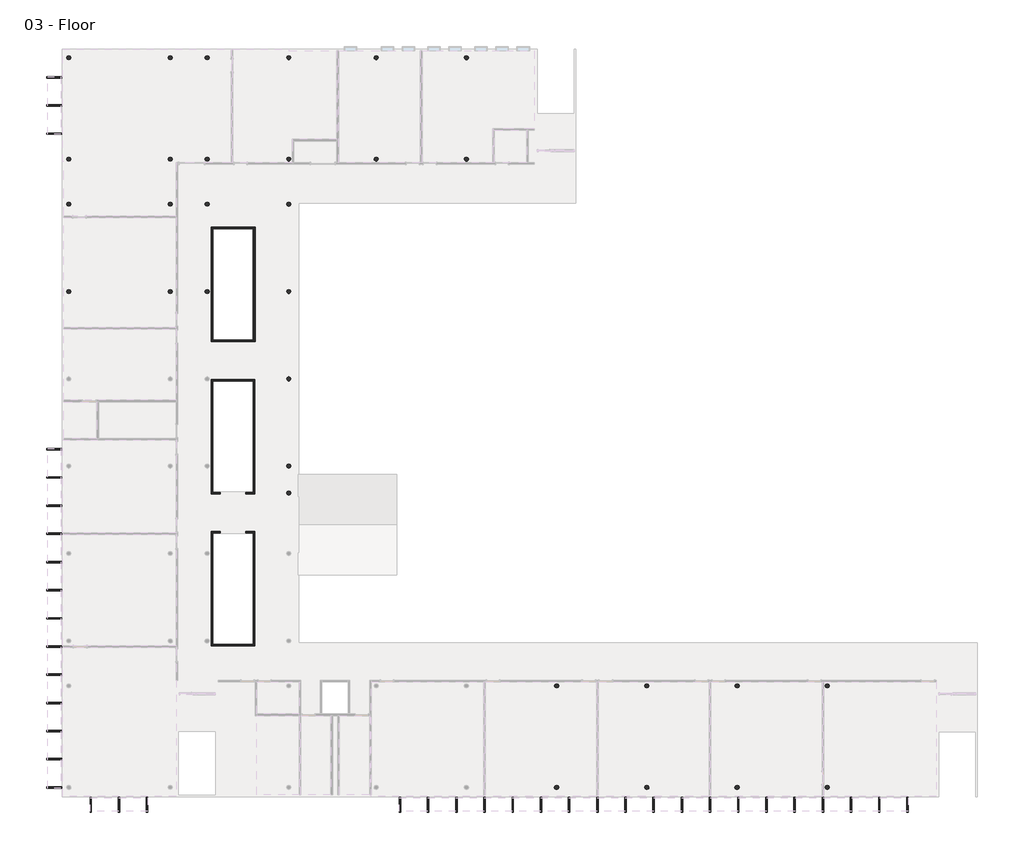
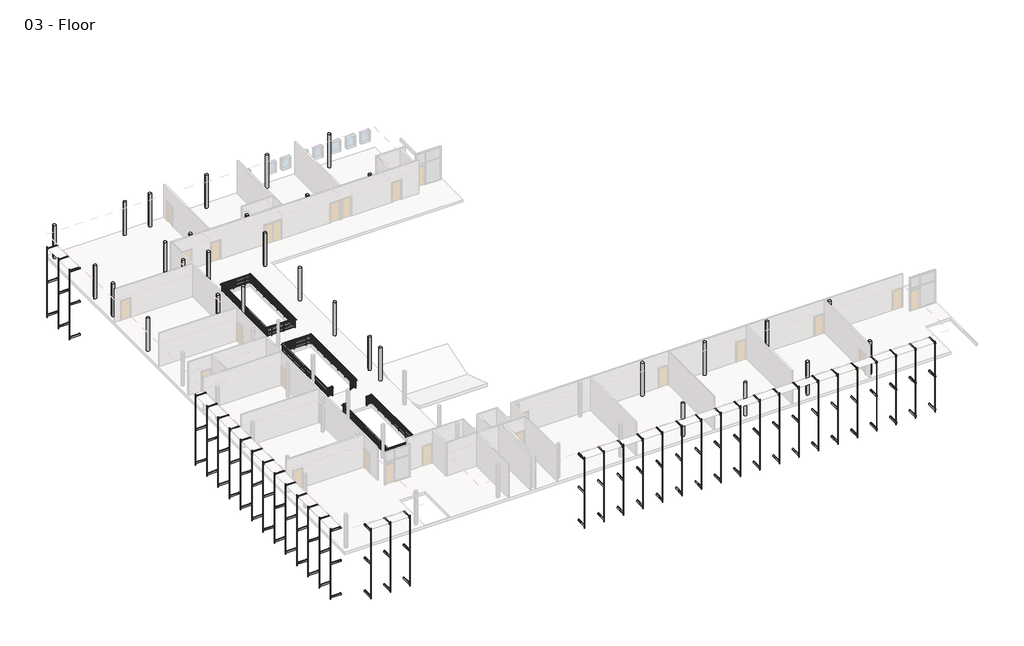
# One storey, part 4 of 4: 38 proxies, 31 columns, 3 railings.
"""IFC4 building model written with IfcOpenShell, lengths in millimetres."""

from ifc_helpers import new_model, si_unit, point, frame, frame_2d, origin, place, context, project, spatial, circle_curve, trimmed, segment, composite_curve, outline, extrude, transform, mapped, element, save
from components import shade_support_shade_support_fc9bf8e5, guardrail_pipe_5d98fd56, guardrail_pipe_c8bc3c76, guardrail_pipe_a18c1e3b

model = new_model("IFC4")

# Units and contexts
model_context = context("Model", 3, world=origin())
ifc_project = project(units=[si_unit("LENGTHUNIT", "METRE", prefix="MILLI")], contexts=[model_context])

# Site, building, storey
site = spatial("IfcSite", under=ifc_project)
building = spatial("IfcBuilding", under=site)
storey = spatial("IfcBuildingStorey", under=building, Name="03 - Floor", Elevation=7315.2)

# Proxies
placement = place(None, origin())
shade_support_shade_support_shape = shade_support_shade_support_fc9bf8e5(model_context)
element("IfcBuildingElementProxy", 1, Name="SHADE SUPPORT : SHADE SUPPORT", ObjectType="SHADE SUPPORT : SHADE SUPPORT", at=placement, inside=storey, context=model_context, shape_type="MappedRepresentation", body=[
    mapped(shade_support_shade_support_shape, transform((2210.7207476, -111.2, 2470.15), x_axis=(1.0, 0.0, 0.0), y_axis=(0.0, 0.0, 1.0), z_axis=(0.0, -1.0, 0.0))),
])
element("IfcBuildingElementProxy", 2, Name="SHADE SUPPORT : SHADE SUPPORT", ObjectType="SHADE SUPPORT : SHADE SUPPORT", at=placement, inside=storey, context=model_context, shape_type="MappedRepresentation", body=[
    mapped(shade_support_shade_support_shape, transform((4242.7207476, -111.2, 2470.15), x_axis=(1.0, 0.0, 0.0), y_axis=(0.0, 0.0, 1.0), z_axis=(0.0, -1.0, 0.0))),
])
element("IfcBuildingElementProxy", 3, Name="SHADE SUPPORT : SHADE SUPPORT", ObjectType="SHADE SUPPORT : SHADE SUPPORT", at=placement, inside=storey, context=model_context, shape_type="MappedRepresentation", body=[
    mapped(shade_support_shade_support_shape, transform((6274.7207476, -111.2, 2470.15), x_axis=(1.0, 0.0, 0.0), y_axis=(0.0, 0.0, 1.0), z_axis=(0.0, -1.0, 0.0))),
])
element("IfcBuildingElementProxy", 4, Name="SHADE SUPPORT : SHADE SUPPORT", ObjectType="SHADE SUPPORT : SHADE SUPPORT", at=placement, inside=storey, context=model_context, shape_type="MappedRepresentation", body=[
    mapped(shade_support_shade_support_shape, transform((24499.2207476, -111.2, 2470.15), x_axis=(1.0, 0.0, 0.0), y_axis=(0.0, 0.0, 1.0), z_axis=(0.0, -1.0, 0.0))),
])
element("IfcBuildingElementProxy", 5, Name="SHADE SUPPORT : SHADE SUPPORT", ObjectType="SHADE SUPPORT : SHADE SUPPORT", at=placement, inside=storey, context=model_context, shape_type="MappedRepresentation", body=[
    mapped(shade_support_shade_support_shape, transform((26531.2207476, -111.2, 2470.15), x_axis=(1.0, 0.0, 0.0), y_axis=(0.0, 0.0, 1.0), z_axis=(0.0, -1.0, 0.0))),
])
element("IfcBuildingElementProxy", 6, Name="SHADE SUPPORT : SHADE SUPPORT", ObjectType="SHADE SUPPORT : SHADE SUPPORT", at=placement, inside=storey, context=model_context, shape_type="MappedRepresentation", body=[
    mapped(shade_support_shade_support_shape, transform((28563.2207476, -111.2, 2470.15), x_axis=(1.0, 0.0, 0.0), y_axis=(0.0, 0.0, 1.0), z_axis=(0.0, -1.0, 0.0))),
])
element("IfcBuildingElementProxy", 7, Name="SHADE SUPPORT : SHADE SUPPORT", ObjectType="SHADE SUPPORT : SHADE SUPPORT", at=placement, inside=storey, context=model_context, shape_type="MappedRepresentation", body=[
    mapped(shade_support_shade_support_shape, transform((30595.2207476, -111.2, 2470.15), x_axis=(1.0, 0.0, 0.0), y_axis=(0.0, 0.0, 1.0), z_axis=(0.0, -1.0, 0.0))),
])
element("IfcBuildingElementProxy", 8, Name="SHADE SUPPORT : SHADE SUPPORT", ObjectType="SHADE SUPPORT : SHADE SUPPORT", at=placement, inside=storey, context=model_context, shape_type="MappedRepresentation", body=[
    mapped(shade_support_shade_support_shape, transform((32627.2207476, -111.2, 2470.15), x_axis=(1.0, 0.0, 0.0), y_axis=(0.0, 0.0, 1.0), z_axis=(0.0, -1.0, 0.0))),
])
element("IfcBuildingElementProxy", 9, Name="SHADE SUPPORT : SHADE SUPPORT", ObjectType="SHADE SUPPORT : SHADE SUPPORT", at=placement, inside=storey, context=model_context, shape_type="MappedRepresentation", body=[
    mapped(shade_support_shade_support_shape, transform((34659.2207476, -111.2, 2470.15), x_axis=(1.0, 0.0, 0.0), y_axis=(0.0, 0.0, 1.0), z_axis=(0.0, -1.0, 0.0))),
])
element("IfcBuildingElementProxy", 10, Name="SHADE SUPPORT : SHADE SUPPORT", ObjectType="SHADE SUPPORT : SHADE SUPPORT", at=placement, inside=storey, context=model_context, shape_type="MappedRepresentation", body=[
    mapped(shade_support_shade_support_shape, transform((36691.2207476, -111.2, 2470.15), x_axis=(1.0, 0.0, 0.0), y_axis=(0.0, 0.0, 1.0), z_axis=(0.0, -1.0, 0.0))),
])
element("IfcBuildingElementProxy", 11, Name="SHADE SUPPORT : SHADE SUPPORT", ObjectType="SHADE SUPPORT : SHADE SUPPORT", at=placement, inside=storey, context=model_context, shape_type="MappedRepresentation", body=[
    mapped(shade_support_shade_support_shape, transform((38723.2207476, -111.2, 2470.15), x_axis=(1.0, 0.0, 0.0), y_axis=(0.0, 0.0, 1.0), z_axis=(0.0, -1.0, 0.0))),
])
element("IfcBuildingElementProxy", 12, Name="SHADE SUPPORT : SHADE SUPPORT", ObjectType="SHADE SUPPORT : SHADE SUPPORT", at=placement, inside=storey, context=model_context, shape_type="MappedRepresentation", body=[
    mapped(shade_support_shade_support_shape, transform((40755.2207476, -111.2, 2470.15), x_axis=(1.0, 0.0, 0.0), y_axis=(0.0, 0.0, 1.0), z_axis=(0.0, -1.0, 0.0))),
])
element("IfcBuildingElementProxy", 13, Name="SHADE SUPPORT : SHADE SUPPORT", ObjectType="SHADE SUPPORT : SHADE SUPPORT", at=placement, inside=storey, context=model_context, shape_type="MappedRepresentation", body=[
    mapped(shade_support_shade_support_shape, transform((42787.2207476, -111.2, 2470.15), x_axis=(1.0, 0.0, 0.0), y_axis=(0.0, 0.0, 1.0), z_axis=(0.0, -1.0, 0.0))),
])
element("IfcBuildingElementProxy", 14, Name="SHADE SUPPORT : SHADE SUPPORT", ObjectType="SHADE SUPPORT : SHADE SUPPORT", at=placement, inside=storey, context=model_context, shape_type="MappedRepresentation", body=[
    mapped(shade_support_shade_support_shape, transform((44819.2207476, -111.2, 2470.15), x_axis=(1.0, 0.0, 0.0), y_axis=(0.0, 0.0, 1.0), z_axis=(0.0, -1.0, 0.0))),
])
element("IfcBuildingElementProxy", 15, Name="SHADE SUPPORT : SHADE SUPPORT", ObjectType="SHADE SUPPORT : SHADE SUPPORT", at=placement, inside=storey, context=model_context, shape_type="MappedRepresentation", body=[
    mapped(shade_support_shade_support_shape, transform((46851.2207476, -111.2, 2470.15), x_axis=(1.0, 0.0, 0.0), y_axis=(0.0, 0.0, 1.0), z_axis=(0.0, -1.0, 0.0))),
])
element("IfcBuildingElementProxy", 16, Name="SHADE SUPPORT : SHADE SUPPORT", ObjectType="SHADE SUPPORT : SHADE SUPPORT", at=placement, inside=storey, context=model_context, shape_type="MappedRepresentation", body=[
    mapped(shade_support_shade_support_shape, transform((48883.2207476, -111.2, 2470.15), x_axis=(1.0, 0.0, 0.0), y_axis=(0.0, 0.0, 1.0), z_axis=(0.0, -1.0, 0.0))),
])
element("IfcBuildingElementProxy", 17, Name="SHADE SUPPORT : SHADE SUPPORT", ObjectType="SHADE SUPPORT : SHADE SUPPORT", at=placement, inside=storey, context=model_context, shape_type="MappedRepresentation", body=[
    mapped(shade_support_shade_support_shape, transform((50915.2207476, -111.2, 2470.15), x_axis=(1.0, 0.0, 0.0), y_axis=(0.0, 0.0, 1.0), z_axis=(0.0, -1.0, 0.0))),
])
element("IfcBuildingElementProxy", 18, Name="SHADE SUPPORT : SHADE SUPPORT", ObjectType="SHADE SUPPORT : SHADE SUPPORT", at=placement, inside=storey, context=model_context, shape_type="MappedRepresentation", body=[
    mapped(shade_support_shade_support_shape, transform((52947.2207476, -111.2, 2470.15), x_axis=(1.0, 0.0, 0.0), y_axis=(0.0, 0.0, 1.0), z_axis=(0.0, -1.0, 0.0))),
])
element("IfcBuildingElementProxy", 19, Name="SHADE SUPPORT : SHADE SUPPORT", ObjectType="SHADE SUPPORT : SHADE SUPPORT", at=placement, inside=storey, context=model_context, shape_type="MappedRepresentation", body=[
    mapped(shade_support_shade_support_shape, transform((54979.2207476, -111.2, 2470.15), x_axis=(1.0, 0.0, 0.0), y_axis=(0.0, 0.0, 1.0), z_axis=(0.0, -1.0, 0.0))),
])
element("IfcBuildingElementProxy", 20, Name="SHADE SUPPORT : SHADE SUPPORT", ObjectType="SHADE SUPPORT : SHADE SUPPORT", at=placement, inside=storey, context=model_context, shape_type="MappedRepresentation", body=[
    mapped(shade_support_shade_support_shape, transform((57011.2207476, -111.2, 2470.15), x_axis=(1.0, 0.0, 0.0), y_axis=(0.0, 0.0, 1.0), z_axis=(0.0, -1.0, 0.0))),
])
element("IfcBuildingElementProxy", 21, Name="SHADE SUPPORT : SHADE SUPPORT", ObjectType="SHADE SUPPORT : SHADE SUPPORT", at=placement, inside=storey, context=model_context, shape_type="MappedRepresentation", body=[
    mapped(shade_support_shade_support_shape, transform((59043.2207476, -111.2, 2470.15), x_axis=(1.0, 0.0, 0.0), y_axis=(0.0, 0.0, 1.0), z_axis=(0.0, -1.0, 0.0))),
])
element("IfcBuildingElementProxy", 22, Name="SHADE SUPPORT : SHADE SUPPORT", ObjectType="SHADE SUPPORT : SHADE SUPPORT", at=placement, inside=storey, context=model_context, shape_type="MappedRepresentation", body=[
    mapped(shade_support_shade_support_shape, transform((61075.2207476, -111.2, 2470.15), x_axis=(1.0, 0.0, 0.0), y_axis=(0.0, 0.0, 1.0), z_axis=(0.0, -1.0, 0.0))),
])
element("IfcBuildingElementProxy", 23, Name="SHADE SUPPORT : SHADE SUPPORT", ObjectType="SHADE SUPPORT : SHADE SUPPORT", at=placement, inside=storey, context=model_context, shape_type="MappedRepresentation", body=[
    mapped(shade_support_shade_support_shape, transform((115.2207476, 600.0, 2470.15), x_axis=(0.0, -1.0, 0.0), y_axis=(0.0, 0.0, 1.0), z_axis=(-1.0, 0.0, 0.0))),
])
element("IfcBuildingElementProxy", 24, Name="SHADE SUPPORT : SHADE SUPPORT", ObjectType="SHADE SUPPORT : SHADE SUPPORT", at=placement, inside=storey, context=model_context, shape_type="MappedRepresentation", body=[
    mapped(shade_support_shade_support_shape, transform((115.2207476, 2632.0, 2470.15), x_axis=(0.0, -1.0, 0.0), y_axis=(0.0, 0.0, 1.0), z_axis=(-1.0, 0.0, 0.0))),
])
element("IfcBuildingElementProxy", 25, Name="SHADE SUPPORT : SHADE SUPPORT", ObjectType="SHADE SUPPORT : SHADE SUPPORT", at=placement, inside=storey, context=model_context, shape_type="MappedRepresentation", body=[
    mapped(shade_support_shade_support_shape, transform((115.2207476, 4664.0, 2470.15), x_axis=(0.0, -1.0, 0.0), y_axis=(0.0, 0.0, 1.0), z_axis=(-1.0, 0.0, 0.0))),
])
element("IfcBuildingElementProxy", 26, Name="SHADE SUPPORT : SHADE SUPPORT", ObjectType="SHADE SUPPORT : SHADE SUPPORT", at=placement, inside=storey, context=model_context, shape_type="MappedRepresentation", body=[
    mapped(shade_support_shade_support_shape, transform((115.2207476, 6696.0, 2470.15), x_axis=(0.0, -1.0, 0.0), y_axis=(0.0, 0.0, 1.0), z_axis=(-1.0, 0.0, 0.0))),
])
element("IfcBuildingElementProxy", 27, Name="SHADE SUPPORT : SHADE SUPPORT", ObjectType="SHADE SUPPORT : SHADE SUPPORT", at=placement, inside=storey, context=model_context, shape_type="MappedRepresentation", body=[
    mapped(shade_support_shade_support_shape, transform((115.2207476, 8728.0, 2470.15), x_axis=(0.0, -1.0, 0.0), y_axis=(0.0, 0.0, 1.0), z_axis=(-1.0, 0.0, 0.0))),
])
element("IfcBuildingElementProxy", 28, Name="SHADE SUPPORT : SHADE SUPPORT", ObjectType="SHADE SUPPORT : SHADE SUPPORT", at=placement, inside=storey, context=model_context, shape_type="MappedRepresentation", body=[
    mapped(shade_support_shade_support_shape, transform((115.2207476, 10760.0, 2470.15), x_axis=(0.0, -1.0, 0.0), y_axis=(0.0, 0.0, 1.0), z_axis=(-1.0, 0.0, 0.0))),
])
element("IfcBuildingElementProxy", 29, Name="SHADE SUPPORT : SHADE SUPPORT", ObjectType="SHADE SUPPORT : SHADE SUPPORT", at=placement, inside=storey, context=model_context, shape_type="MappedRepresentation", body=[
    mapped(shade_support_shade_support_shape, transform((115.2207476, 12792.0, 2470.15), x_axis=(0.0, -1.0, 0.0), y_axis=(0.0, 0.0, 1.0), z_axis=(-1.0, 0.0, 0.0))),
])
element("IfcBuildingElementProxy", 30, Name="SHADE SUPPORT : SHADE SUPPORT", ObjectType="SHADE SUPPORT : SHADE SUPPORT", at=placement, inside=storey, context=model_context, shape_type="MappedRepresentation", body=[
    mapped(shade_support_shade_support_shape, transform((115.2207476, 14824.0, 2470.15), x_axis=(0.0, -1.0, 0.0), y_axis=(0.0, 0.0, 1.0), z_axis=(-1.0, 0.0, 0.0))),
])
element("IfcBuildingElementProxy", 31, Name="SHADE SUPPORT : SHADE SUPPORT", ObjectType="SHADE SUPPORT : SHADE SUPPORT", at=placement, inside=storey, context=model_context, shape_type="MappedRepresentation", body=[
    mapped(shade_support_shade_support_shape, transform((115.2207476, 16856.0, 2470.15), x_axis=(0.0, -1.0, 0.0), y_axis=(0.0, 0.0, 1.0), z_axis=(-1.0, 0.0, 0.0))),
])
element("IfcBuildingElementProxy", 32, Name="SHADE SUPPORT : SHADE SUPPORT", ObjectType="SHADE SUPPORT : SHADE SUPPORT", at=placement, inside=storey, context=model_context, shape_type="MappedRepresentation", body=[
    mapped(shade_support_shade_support_shape, transform((115.2207476, 18888.0, 2470.15), x_axis=(0.0, -1.0, 0.0), y_axis=(0.0, 0.0, 1.0), z_axis=(-1.0, 0.0, 0.0))),
])
element("IfcBuildingElementProxy", 33, Name="SHADE SUPPORT : SHADE SUPPORT", ObjectType="SHADE SUPPORT : SHADE SUPPORT", at=placement, inside=storey, context=model_context, shape_type="MappedRepresentation", body=[
    mapped(shade_support_shade_support_shape, transform((115.2207476, 20920.0, 2470.15), x_axis=(0.0, -1.0, 0.0), y_axis=(0.0, 0.0, 1.0), z_axis=(-1.0, 0.0, 0.0))),
])
element("IfcBuildingElementProxy", 34, Name="SHADE SUPPORT : SHADE SUPPORT", ObjectType="SHADE SUPPORT : SHADE SUPPORT", at=placement, inside=storey, context=model_context, shape_type="MappedRepresentation", body=[
    mapped(shade_support_shade_support_shape, transform((115.2207476, 22952.0, 2470.15), x_axis=(0.0, -1.0, 0.0), y_axis=(0.0, 0.0, 1.0), z_axis=(-1.0, 0.0, 0.0))),
])
element("IfcBuildingElementProxy", 35, Name="SHADE SUPPORT : SHADE SUPPORT", ObjectType="SHADE SUPPORT : SHADE SUPPORT", at=placement, inside=storey, context=model_context, shape_type="MappedRepresentation", body=[
    mapped(shade_support_shade_support_shape, transform((115.2207476, 24984.0, 2470.15), x_axis=(0.0, -1.0, 0.0), y_axis=(0.0, 0.0, 1.0), z_axis=(-1.0, 0.0, 0.0))),
])
element("IfcBuildingElementProxy", 36, Name="SHADE SUPPORT : SHADE SUPPORT", ObjectType="SHADE SUPPORT : SHADE SUPPORT", at=placement, inside=storey, context=model_context, shape_type="MappedRepresentation", body=[
    mapped(shade_support_shade_support_shape, transform((115.2207476, 47748.75, 2470.15), x_axis=(0.0, -1.0, 0.0), y_axis=(0.0, 0.0, 1.0), z_axis=(-1.0, 0.0, 0.0))),
])
element("IfcBuildingElementProxy", 37, Name="SHADE SUPPORT : SHADE SUPPORT", ObjectType="SHADE SUPPORT : SHADE SUPPORT", at=placement, inside=storey, context=model_context, shape_type="MappedRepresentation", body=[
    mapped(shade_support_shade_support_shape, transform((115.2207476, 49780.75, 2470.15), x_axis=(0.0, -1.0, 0.0), y_axis=(0.0, 0.0, 1.0), z_axis=(-1.0, 0.0, 0.0))),
])
element("IfcBuildingElementProxy", 38, Name="SHADE SUPPORT : SHADE SUPPORT", ObjectType="SHADE SUPPORT : SHADE SUPPORT", at=placement, inside=storey, context=model_context, shape_type="MappedRepresentation", body=[
    mapped(shade_support_shade_support_shape, transform((115.2207476, 51812.75, 2470.15), x_axis=(0.0, -1.0, 0.0), y_axis=(0.0, 0.0, 1.0), z_axis=(-1.0, 0.0, 0.0))),
])

# Columns
element("IfcColumn", 39, ObjectType="Concrete-Round-Column : 12\"", at=placement, inside=storey, context=model_context, shape_type="SweptSolid", body=[
    extrude(outline(composite_curve([segment(trimmed(circle_curve(frame_2d((635.9207476, 53228.8)), 152.4), [point((788.3207476, 53228.8))], [point((483.5207476, 53228.8))], False, "CARTESIAN"), True, "CONTINUOUS"), segment(trimmed(circle_curve(frame_2d((635.9207476, 53228.8)), 152.4), [point((483.5207476, 53228.8))], [point((788.3207476, 53228.8))], False, "CARTESIAN"), True, "CONTINUOUS")], self_intersect=False)), frame((0.0, 0.0, 7315.2), z_axis=(0.0, 0.0, 1.0), x_axis=(1.0, 0.0, 0.0)), (0.0, 0.0, 1.0), 3657.6),
])
element("IfcColumn", 40, ObjectType="Concrete-Round-Column : 12\"", at=placement, inside=storey, context=model_context, shape_type="SweptSolid", body=[
    extrude(outline(composite_curve([segment(trimmed(circle_curve(frame_2d((635.9207476, 45913.6)), 152.4), [point((788.3207476, 45913.6))], [point((483.5207476, 45913.6))], False, "CARTESIAN"), True, "CONTINUOUS"), segment(trimmed(circle_curve(frame_2d((635.9207476, 45913.6)), 152.4), [point((483.5207476, 45913.6))], [point((788.3207476, 45913.6))], False, "CARTESIAN"), True, "CONTINUOUS")], self_intersect=False)), frame((0.0, 0.0, 7315.2), z_axis=(0.0, 0.0, 1.0), x_axis=(1.0, 0.0, 0.0)), (0.0, 0.0, 1.0), 3657.6),
])
element("IfcColumn", 41, ObjectType="Concrete-Round-Column : 12\"", at=placement, inside=storey, context=model_context, shape_type="SweptSolid", body=[
    extrude(outline(composite_curve([segment(trimmed(circle_curve(frame_2d((635.9207476, 42662.4)), 152.4), [point((788.3207476, 42662.4))], [point((483.5207476, 42662.4))], False, "CARTESIAN"), True, "CONTINUOUS"), segment(trimmed(circle_curve(frame_2d((635.9207476, 42662.4)), 152.4), [point((483.5207476, 42662.4))], [point((788.3207476, 42662.4))], False, "CARTESIAN"), True, "CONTINUOUS")], self_intersect=False)), frame((0.0, 0.0, 7315.2), z_axis=(0.0, 0.0, 1.0), x_axis=(1.0, 0.0, 0.0)), (0.0, 0.0, 1.0), 3657.6),
])
element("IfcColumn", 42, ObjectType="Concrete-Round-Column : 12\"", at=placement, inside=storey, context=model_context, shape_type="SweptSolid", body=[
    extrude(outline(composite_curve([segment(trimmed(circle_curve(frame_2d((635.9207476, 36363.2)), 152.4), [point((788.3207476, 36363.2))], [point((483.5207476, 36363.2))], False, "CARTESIAN"), True, "CONTINUOUS"), segment(trimmed(circle_curve(frame_2d((635.9207476, 36363.2)), 152.4), [point((483.5207476, 36363.2))], [point((788.3207476, 36363.2))], False, "CARTESIAN"), True, "CONTINUOUS")], self_intersect=False)), frame((0.0, 0.0, 7315.2), z_axis=(0.0, 0.0, 1.0), x_axis=(1.0, 0.0, 0.0)), (0.0, 0.0, 1.0), 3657.6),
])
element("IfcColumn", 43, ObjectType="Concrete-Round-Column : 12\"", at=placement, inside=storey, context=model_context, shape_type="SweptSolid", body=[
    extrude(outline(composite_curve([segment(trimmed(circle_curve(frame_2d((10592.7207476, 53228.8)), 152.4), [point((10745.1207476, 53228.8))], [point((10440.3207476, 53228.8))], False, "CARTESIAN"), True, "CONTINUOUS"), segment(trimmed(circle_curve(frame_2d((10592.7207476, 53228.8)), 152.4), [point((10440.3207476, 53228.8))], [point((10745.1207476, 53228.8))], False, "CARTESIAN"), True, "CONTINUOUS")], self_intersect=False)), frame((0.0, 0.0, 7315.2), z_axis=(0.0, 0.0, 1.0), x_axis=(1.0, 0.0, 0.0)), (0.0, 0.0, 1.0), 3657.6),
])
element("IfcColumn", 44, ObjectType="Concrete-Round-Column : 12\"", at=placement, inside=storey, context=model_context, shape_type="SweptSolid", body=[
    extrude(outline(composite_curve([segment(trimmed(circle_curve(frame_2d((10592.7207476, 45913.6)), 152.4), [point((10745.1207476, 45913.6))], [point((10440.3207476, 45913.6))], False, "CARTESIAN"), True, "CONTINUOUS"), segment(trimmed(circle_curve(frame_2d((10592.7207476, 45913.6)), 152.4), [point((10440.3207476, 45913.6))], [point((10745.1207476, 45913.6))], False, "CARTESIAN"), True, "CONTINUOUS")], self_intersect=False)), frame((0.0, 0.0, 7315.2), z_axis=(0.0, 0.0, 1.0), x_axis=(1.0, 0.0, 0.0)), (0.0, 0.0, 1.0), 3657.6),
])
element("IfcColumn", 45, ObjectType="Concrete-Round-Column : 12\"", at=placement, inside=storey, context=model_context, shape_type="SweptSolid", body=[
    extrude(outline(composite_curve([segment(trimmed(circle_curve(frame_2d((10592.7207476, 42662.4)), 152.4), [point((10745.1207476, 42662.4))], [point((10440.3207476, 42662.4))], False, "CARTESIAN"), True, "CONTINUOUS"), segment(trimmed(circle_curve(frame_2d((10592.7207476, 42662.4)), 152.4), [point((10440.3207476, 42662.4))], [point((10745.1207476, 42662.4))], False, "CARTESIAN"), True, "CONTINUOUS")], self_intersect=False)), frame((0.0, 0.0, 7315.2), z_axis=(0.0, 0.0, 1.0), x_axis=(1.0, 0.0, 0.0)), (0.0, 0.0, 1.0), 3657.6),
])
element("IfcColumn", 46, ObjectType="Concrete-Round-Column : 12\"", at=placement, inside=storey, context=model_context, shape_type="SweptSolid", body=[
    extrude(outline(composite_curve([segment(trimmed(circle_curve(frame_2d((10592.7207476, 36363.2)), 152.4), [point((10745.1207476, 36363.2))], [point((10440.3207476, 36363.2))], False, "CARTESIAN"), True, "CONTINUOUS"), segment(trimmed(circle_curve(frame_2d((10592.7207476, 36363.2)), 152.4), [point((10440.3207476, 36363.2))], [point((10745.1207476, 36363.2))], False, "CARTESIAN"), True, "CONTINUOUS")], self_intersect=False)), frame((0.0, 0.0, 7315.2), z_axis=(0.0, 0.0, 1.0), x_axis=(1.0, 0.0, 0.0)), (0.0, 0.0, 1.0), 3657.6),
])
element("IfcColumn", 47, ObjectType="Concrete-Round-Column : 12\"", at=placement, inside=storey, context=model_context, shape_type="SweptSolid", body=[
    extrude(outline(composite_curve([segment(trimmed(circle_curve(frame_2d((16485.5207476, 53228.8)), 152.4), [point((16637.9207476, 53228.8))], [point((16333.1207476, 53228.8))], False, "CARTESIAN"), True, "CONTINUOUS"), segment(trimmed(circle_curve(frame_2d((16485.5207476, 53228.8)), 152.4), [point((16333.1207476, 53228.8))], [point((16637.9207476, 53228.8))], False, "CARTESIAN"), True, "CONTINUOUS")], self_intersect=False)), frame((0.0, 0.0, 7315.2), z_axis=(0.0, 0.0, 1.0), x_axis=(1.0, 0.0, 0.0)), (0.0, 0.0, 1.0), 3657.6),
])
element("IfcColumn", 48, ObjectType="Concrete-Round-Column : 12\"", at=placement, inside=storey, context=model_context, shape_type="SweptSolid", body=[
    extrude(outline(composite_curve([segment(trimmed(circle_curve(frame_2d((16485.5207476, 45913.6)), 152.4), [point((16637.9207476, 45913.6))], [point((16333.1207476, 45913.6))], False, "CARTESIAN"), True, "CONTINUOUS"), segment(trimmed(circle_curve(frame_2d((16485.5207476, 45913.6)), 152.4), [point((16333.1207476, 45913.6))], [point((16637.9207476, 45913.6))], False, "CARTESIAN"), True, "CONTINUOUS")], self_intersect=False)), frame((0.0, 0.0, 7315.2), z_axis=(0.0, 0.0, 1.0), x_axis=(1.0, 0.0, 0.0)), (0.0, 0.0, 1.0), 3657.6),
])
element("IfcColumn", 49, ObjectType="Concrete-Round-Column : 12\"", at=placement, inside=storey, context=model_context, shape_type="SweptSolid", body=[
    extrude(outline(composite_curve([segment(trimmed(circle_curve(frame_2d((16485.5207476, 42662.4)), 152.4), [point((16637.9207476, 42662.4))], [point((16333.1207476, 42662.4))], False, "CARTESIAN"), True, "CONTINUOUS"), segment(trimmed(circle_curve(frame_2d((16485.5207476, 42662.4)), 152.4), [point((16333.1207476, 42662.4))], [point((16637.9207476, 42662.4))], False, "CARTESIAN"), True, "CONTINUOUS")], self_intersect=False)), frame((0.0, 0.0, 7315.2), z_axis=(0.0, 0.0, 1.0), x_axis=(1.0, 0.0, 0.0)), (0.0, 0.0, 1.0), 3657.6),
])
element("IfcColumn", 50, ObjectType="Concrete-Round-Column : 12\"", at=placement, inside=storey, context=model_context, shape_type="SweptSolid", body=[
    extrude(outline(composite_curve([segment(trimmed(circle_curve(frame_2d((16485.5207476, 36363.2)), 152.4), [point((16637.9207476, 36363.2))], [point((16333.1207476, 36363.2))], False, "CARTESIAN"), True, "CONTINUOUS"), segment(trimmed(circle_curve(frame_2d((16485.5207476, 36363.2)), 152.4), [point((16333.1207476, 36363.2))], [point((16637.9207476, 36363.2))], False, "CARTESIAN"), True, "CONTINUOUS")], self_intersect=False)), frame((0.0, 0.0, 7315.2), z_axis=(0.0, 0.0, 1.0), x_axis=(1.0, 0.0, 0.0)), (0.0, 0.0, 1.0), 3657.6),
])
element("IfcColumn", 51, ObjectType="Concrete-Round-Column : 12\"", at=placement, inside=storey, context=model_context, shape_type="SweptSolid", body=[
    extrude(outline(composite_curve([segment(trimmed(circle_curve(frame_2d((16485.5207476, 30064.0)), 152.4), [point((16637.9207476, 30064.0))], [point((16333.1207476, 30064.0))], False, "CARTESIAN"), True, "CONTINUOUS"), segment(trimmed(circle_curve(frame_2d((16485.5207476, 30064.0)), 152.4), [point((16333.1207476, 30064.0))], [point((16637.9207476, 30064.0))], False, "CARTESIAN"), True, "CONTINUOUS")], self_intersect=False)), frame((0.0, 0.0, 7315.2), z_axis=(0.0, 0.0, 1.0), x_axis=(1.0, 0.0, 0.0)), (0.0, 0.0, 1.0), 3657.6),
])
element("IfcColumn", 52, ObjectType="Concrete-Round-Column : 12\"", at=placement, inside=storey, context=model_context, shape_type="SweptSolid", body=[
    extrude(outline(composite_curve([segment(trimmed(circle_curve(frame_2d((16485.5207476, 23764.8)), 152.4), [point((16637.9207476, 23764.8))], [point((16333.1207476, 23764.8))], False, "CARTESIAN"), True, "CONTINUOUS"), segment(trimmed(circle_curve(frame_2d((16485.5207476, 23764.8)), 152.4), [point((16333.1207476, 23764.8))], [point((16637.9207476, 23764.8))], False, "CARTESIAN"), True, "CONTINUOUS")], self_intersect=False)), frame((0.0, 0.0, 7315.2), z_axis=(0.0, 0.0, 1.0), x_axis=(1.0, 0.0, 0.0)), (0.0, 0.0, 1.0), 3657.6),
])
element("IfcColumn", 53, ObjectType="Concrete-Round-Column : 12\"", at=placement, inside=storey, context=model_context, shape_type="SweptSolid", body=[
    extrude(outline(composite_curve([segment(trimmed(circle_curve(frame_2d((16485.5207476, 21821.7)), 152.4), [point((16637.9207476, 21821.7))], [point((16333.1207476, 21821.7))], False, "CARTESIAN"), True, "CONTINUOUS"), segment(trimmed(circle_curve(frame_2d((16485.5207476, 21821.7)), 152.4), [point((16333.1207476, 21821.7))], [point((16637.9207476, 21821.7))], False, "CARTESIAN"), True, "CONTINUOUS")], self_intersect=False)), frame((0.0, 0.0, 7315.2), z_axis=(0.0, 0.0, 1.0), x_axis=(1.0, 0.0, 0.0)), (0.0, 0.0, 1.0), 3657.6),
])
element("IfcColumn", 54, ObjectType="Concrete-Round-Column : 12\"", at=placement, inside=storey, context=model_context, shape_type="SweptSolid", body=[
    extrude(outline(composite_curve([segment(trimmed(circle_curve(frame_2d((22784.7207476, 53228.8)), 152.4), [point((22937.1207476, 53228.8))], [point((22632.3207476, 53228.8))], False, "CARTESIAN"), True, "CONTINUOUS"), segment(trimmed(circle_curve(frame_2d((22784.7207476, 53228.8)), 152.4), [point((22632.3207476, 53228.8))], [point((22937.1207476, 53228.8))], False, "CARTESIAN"), True, "CONTINUOUS")], self_intersect=False)), frame((0.0, 0.0, 7315.2), z_axis=(0.0, 0.0, 1.0), x_axis=(1.0, 0.0, 0.0)), (0.0, 0.0, 1.0), 3657.6),
])
element("IfcColumn", 55, ObjectType="Concrete-Round-Column : 12\"", at=placement, inside=storey, context=model_context, shape_type="SweptSolid", body=[
    extrude(outline(composite_curve([segment(trimmed(circle_curve(frame_2d((22784.7207476, 45913.6)), 152.4), [point((22937.1207476, 45913.6))], [point((22632.3207476, 45913.6))], False, "CARTESIAN"), True, "CONTINUOUS"), segment(trimmed(circle_curve(frame_2d((22784.7207476, 45913.6)), 152.4), [point((22632.3207476, 45913.6))], [point((22937.1207476, 45913.6))], False, "CARTESIAN"), True, "CONTINUOUS")], self_intersect=False)), frame((0.0, 0.0, 7315.2), z_axis=(0.0, 0.0, 1.0), x_axis=(1.0, 0.0, 0.0)), (0.0, 0.0, 1.0), 3657.6),
])
element("IfcColumn", 56, ObjectType="Concrete-Round-Column : 12\"", at=placement, inside=storey, context=model_context, shape_type="SweptSolid", body=[
    extrude(outline(composite_curve([segment(trimmed(circle_curve(frame_2d((29287.1207476, 53228.8)), 152.4), [point((29439.5207476, 53228.8))], [point((29134.7207476, 53228.8))], False, "CARTESIAN"), True, "CONTINUOUS"), segment(trimmed(circle_curve(frame_2d((29287.1207476, 53228.8)), 152.4), [point((29134.7207476, 53228.8))], [point((29439.5207476, 53228.8))], False, "CARTESIAN"), True, "CONTINUOUS")], self_intersect=False)), frame((0.0, 0.0, 7315.2), z_axis=(0.0, 0.0, 1.0), x_axis=(1.0, 0.0, 0.0)), (0.0, 0.0, 1.0), 3657.6),
])
element("IfcColumn", 57, ObjectType="Concrete-Round-Column : 12\"", at=placement, inside=storey, context=model_context, shape_type="SweptSolid", body=[
    extrude(outline(composite_curve([segment(trimmed(circle_curve(frame_2d((29287.1207476, 45913.6)), 152.4), [point((29439.5207476, 45913.6))], [point((29134.7207476, 45913.6))], False, "CARTESIAN"), True, "CONTINUOUS"), segment(trimmed(circle_curve(frame_2d((29287.1207476, 45913.6)), 152.4), [point((29134.7207476, 45913.6))], [point((29439.5207476, 45913.6))], False, "CARTESIAN"), True, "CONTINUOUS")], self_intersect=False)), frame((0.0, 0.0, 7315.2), z_axis=(0.0, 0.0, 1.0), x_axis=(1.0, 0.0, 0.0)), (0.0, 0.0, 1.0), 3657.6),
])
element("IfcColumn", 58, ObjectType="Concrete-Round-Column : 12\"", at=placement, inside=storey, context=model_context, shape_type="SweptSolid", body=[
    extrude(outline(composite_curve([segment(trimmed(circle_curve(frame_2d((35789.5207476, 7915.2)), 152.4), [point((35941.9207476, 7915.2))], [point((35637.1207476, 7915.2))], False, "CARTESIAN"), True, "CONTINUOUS"), segment(trimmed(circle_curve(frame_2d((35789.5207476, 7915.2)), 152.4), [point((35637.1207476, 7915.2))], [point((35941.9207476, 7915.2))], False, "CARTESIAN"), True, "CONTINUOUS")], self_intersect=False)), frame((0.0, 0.0, 7315.2), z_axis=(0.0, 0.0, 1.0), x_axis=(1.0, 0.0, 0.0)), (0.0, 0.0, 1.0), 3657.6),
])
element("IfcColumn", 59, ObjectType="Concrete-Round-Column : 12\"", at=placement, inside=storey, context=model_context, shape_type="SweptSolid", body=[
    extrude(outline(composite_curve([segment(trimmed(circle_curve(frame_2d((35789.5207476, 600.0)), 152.4), [point((35941.9207476, 600.0))], [point((35637.1207476, 600.0))], False, "CARTESIAN"), True, "CONTINUOUS"), segment(trimmed(circle_curve(frame_2d((35789.5207476, 600.0)), 152.4), [point((35637.1207476, 600.0))], [point((35941.9207476, 600.0))], False, "CARTESIAN"), True, "CONTINUOUS")], self_intersect=False)), frame((0.0, 0.0, 7315.2), z_axis=(0.0, 0.0, 1.0), x_axis=(1.0, 0.0, 0.0)), (0.0, 0.0, 1.0), 3657.6),
])
element("IfcColumn", 60, ObjectType="Concrete-Round-Column : 12\"", at=placement, inside=storey, context=model_context, shape_type="SweptSolid", body=[
    extrude(outline(composite_curve([segment(trimmed(circle_curve(frame_2d((42291.9207476, 7915.2)), 152.4), [point((42444.3207476, 7915.2))], [point((42139.5207476, 7915.2))], False, "CARTESIAN"), True, "CONTINUOUS"), segment(trimmed(circle_curve(frame_2d((42291.9207476, 7915.2)), 152.4), [point((42139.5207476, 7915.2))], [point((42444.3207476, 7915.2))], False, "CARTESIAN"), True, "CONTINUOUS")], self_intersect=False)), frame((0.0, 0.0, 7315.2), z_axis=(0.0, 0.0, 1.0), x_axis=(1.0, 0.0, 0.0)), (0.0, 0.0, 1.0), 3657.6),
])
element("IfcColumn", 61, ObjectType="Concrete-Round-Column : 12\"", at=placement, inside=storey, context=model_context, shape_type="SweptSolid", body=[
    extrude(outline(composite_curve([segment(trimmed(circle_curve(frame_2d((42291.9207476, 600.0)), 152.4), [point((42444.3207476, 600.0))], [point((42139.5207476, 600.0))], False, "CARTESIAN"), True, "CONTINUOUS"), segment(trimmed(circle_curve(frame_2d((42291.9207476, 600.0)), 152.4), [point((42139.5207476, 600.0))], [point((42444.3207476, 600.0))], False, "CARTESIAN"), True, "CONTINUOUS")], self_intersect=False)), frame((0.0, 0.0, 7315.2), z_axis=(0.0, 0.0, 1.0), x_axis=(1.0, 0.0, 0.0)), (0.0, 0.0, 1.0), 3657.6),
])
element("IfcColumn", 62, ObjectType="Concrete-Round-Column : 12\"", at=placement, inside=storey, context=model_context, shape_type="SweptSolid", body=[
    extrude(outline(composite_curve([segment(trimmed(circle_curve(frame_2d((48794.3207476, 7915.2)), 152.4), [point((48946.7207476, 7915.2))], [point((48641.9207476, 7915.2))], False, "CARTESIAN"), True, "CONTINUOUS"), segment(trimmed(circle_curve(frame_2d((48794.3207476, 7915.2)), 152.4), [point((48641.9207476, 7915.2))], [point((48946.7207476, 7915.2))], False, "CARTESIAN"), True, "CONTINUOUS")], self_intersect=False)), frame((0.0, 0.0, 7315.2), z_axis=(0.0, 0.0, 1.0), x_axis=(1.0, 0.0, 0.0)), (0.0, 0.0, 1.0), 3657.6),
])
element("IfcColumn", 63, ObjectType="Concrete-Round-Column : 12\"", at=placement, inside=storey, context=model_context, shape_type="SweptSolid", body=[
    extrude(outline(composite_curve([segment(trimmed(circle_curve(frame_2d((48794.3207476, 600.0)), 152.4), [point((48946.7207476, 600.0))], [point((48641.9207476, 600.0))], False, "CARTESIAN"), True, "CONTINUOUS"), segment(trimmed(circle_curve(frame_2d((48794.3207476, 600.0)), 152.4), [point((48641.9207476, 600.0))], [point((48946.7207476, 600.0))], False, "CARTESIAN"), True, "CONTINUOUS")], self_intersect=False)), frame((0.0, 0.0, 7315.2), z_axis=(0.0, 0.0, 1.0), x_axis=(1.0, 0.0, 0.0)), (0.0, 0.0, 1.0), 3657.6),
])
element("IfcColumn", 64, ObjectType="Concrete-Round-Column : 12\"", at=placement, inside=storey, context=model_context, shape_type="SweptSolid", body=[
    extrude(outline(composite_curve([segment(trimmed(circle_curve(frame_2d((55296.7207476, 7915.2)), 152.4), [point((55449.1207476, 7915.2))], [point((55144.3207476, 7915.2))], False, "CARTESIAN"), True, "CONTINUOUS"), segment(trimmed(circle_curve(frame_2d((55296.7207476, 7915.2)), 152.4), [point((55144.3207476, 7915.2))], [point((55449.1207476, 7915.2))], False, "CARTESIAN"), True, "CONTINUOUS")], self_intersect=False)), frame((0.0, 0.0, 7315.2), z_axis=(0.0, 0.0, 1.0), x_axis=(1.0, 0.0, 0.0)), (0.0, 0.0, 1.0), 3657.6),
])
element("IfcColumn", 65, ObjectType="Concrete-Round-Column : 12\"", at=placement, inside=storey, context=model_context, shape_type="SweptSolid", body=[
    extrude(outline(composite_curve([segment(trimmed(circle_curve(frame_2d((55296.7207476, 600.0)), 152.4), [point((55449.1207476, 600.0))], [point((55144.3207476, 600.0))], False, "CARTESIAN"), True, "CONTINUOUS"), segment(trimmed(circle_curve(frame_2d((55296.7207476, 600.0)), 152.4), [point((55144.3207476, 600.0))], [point((55449.1207476, 600.0))], False, "CARTESIAN"), True, "CONTINUOUS")], self_intersect=False)), frame((0.0, 0.0, 7315.2), z_axis=(0.0, 0.0, 1.0), x_axis=(1.0, 0.0, 0.0)), (0.0, 0.0, 1.0), 3657.6),
])
element("IfcColumn", 66, ObjectType="Concrete-Round-Column : 12\"", at=placement, inside=storey, context=model_context, shape_type="SweptSolid", body=[
    extrude(outline(composite_curve([segment(trimmed(circle_curve(frame_2d((7951.1207476, 53228.8)), 152.4), [point((8103.5207476, 53228.8))], [point((7798.7207476, 53228.8))], False, "CARTESIAN"), True, "CONTINUOUS"), segment(trimmed(circle_curve(frame_2d((7951.1207476, 53228.8)), 152.4), [point((7798.7207476, 53228.8))], [point((8103.5207476, 53228.8))], False, "CARTESIAN"), True, "CONTINUOUS")], self_intersect=False)), frame((0.0, 0.0, 7315.2), z_axis=(0.0, 0.0, 1.0), x_axis=(1.0, 0.0, 0.0)), (0.0, 0.0, 1.0), 3657.6),
])
element("IfcColumn", 67, ObjectType="Concrete-Round-Column : 12\"", at=placement, inside=storey, context=model_context, shape_type="SweptSolid", body=[
    extrude(outline(composite_curve([segment(trimmed(circle_curve(frame_2d((7951.1207476, 45913.6)), 152.4), [point((8103.5207476, 45913.6))], [point((7798.7207476, 45913.6))], False, "CARTESIAN"), True, "CONTINUOUS"), segment(trimmed(circle_curve(frame_2d((7951.1207476, 45913.6)), 152.4), [point((7798.7207476, 45913.6))], [point((8103.5207476, 45913.6))], False, "CARTESIAN"), True, "CONTINUOUS")], self_intersect=False)), frame((0.0, 0.0, 7315.2), z_axis=(0.0, 0.0, 1.0), x_axis=(1.0, 0.0, 0.0)), (0.0, 0.0, 1.0), 3657.6),
])
element("IfcColumn", 68, ObjectType="Concrete-Round-Column : 12\"", at=placement, inside=storey, context=model_context, shape_type="SweptSolid", body=[
    extrude(outline(composite_curve([segment(trimmed(circle_curve(frame_2d((7951.1207476, 42662.4)), 152.4), [point((8103.5207476, 42662.4))], [point((7798.7207476, 42662.4))], False, "CARTESIAN"), True, "CONTINUOUS"), segment(trimmed(circle_curve(frame_2d((7951.1207476, 42662.4)), 152.4), [point((7798.7207476, 42662.4))], [point((8103.5207476, 42662.4))], False, "CARTESIAN"), True, "CONTINUOUS")], self_intersect=False)), frame((0.0, 0.0, 7315.2), z_axis=(0.0, 0.0, 1.0), x_axis=(1.0, 0.0, 0.0)), (0.0, 0.0, 1.0), 3657.6),
])
element("IfcColumn", 69, ObjectType="Concrete-Round-Column : 12\"", at=placement, inside=storey, context=model_context, shape_type="SweptSolid", body=[
    extrude(outline(composite_curve([segment(trimmed(circle_curve(frame_2d((7951.1207476, 36363.2)), 152.4), [point((8103.5207476, 36363.2))], [point((7798.7207476, 36363.2))], False, "CARTESIAN"), True, "CONTINUOUS"), segment(trimmed(circle_curve(frame_2d((7951.1207476, 36363.2)), 152.4), [point((7798.7207476, 36363.2))], [point((8103.5207476, 36363.2))], False, "CARTESIAN"), True, "CONTINUOUS")], self_intersect=False)), frame((0.0, 0.0, 7315.2), z_axis=(0.0, 0.0, 1.0), x_axis=(1.0, 0.0, 0.0)), (0.0, 0.0, 1.0), 3657.6),
])

# Railings
guardrail_pipe_shape = guardrail_pipe_5d98fd56(model_context)
element("IfcRailing", 70, ObjectType="Guardrail - Pipe", at=placement, inside=storey, context=model_context, shape_type="MappedRepresentation", body=[
    mapped(guardrail_pipe_shape, transform((0.0, 0.0, 0.0), x_axis=(1.0, 0.0, 0.0), y_axis=(0.0, 1.0, 0.0), z_axis=(0.0, 0.0, 1.0))),
])
guardrail_pipe_2_shape = guardrail_pipe_c8bc3c76(model_context)
element("IfcRailing", 71, ObjectType="Guardrail - Pipe", at=placement, inside=storey, context=model_context, shape_type="MappedRepresentation", body=[
    mapped(guardrail_pipe_2_shape, transform((0.0, 0.0, 0.0), x_axis=(1.0, 0.0, 0.0), y_axis=(0.0, 1.0, 0.0), z_axis=(0.0, 0.0, 1.0))),
])
guardrail_pipe_3_shape = guardrail_pipe_a18c1e3b(model_context)
element("IfcRailing", 72, ObjectType="Guardrail - Pipe", at=placement, inside=storey, context=model_context, shape_type="MappedRepresentation", body=[
    mapped(guardrail_pipe_3_shape, transform((0.0, 0.0, 0.0), x_axis=(1.0, 0.0, 0.0), y_axis=(0.0, 1.0, 0.0), z_axis=(0.0, 0.0, 1.0))),
])

save(model, "model.ifc")
